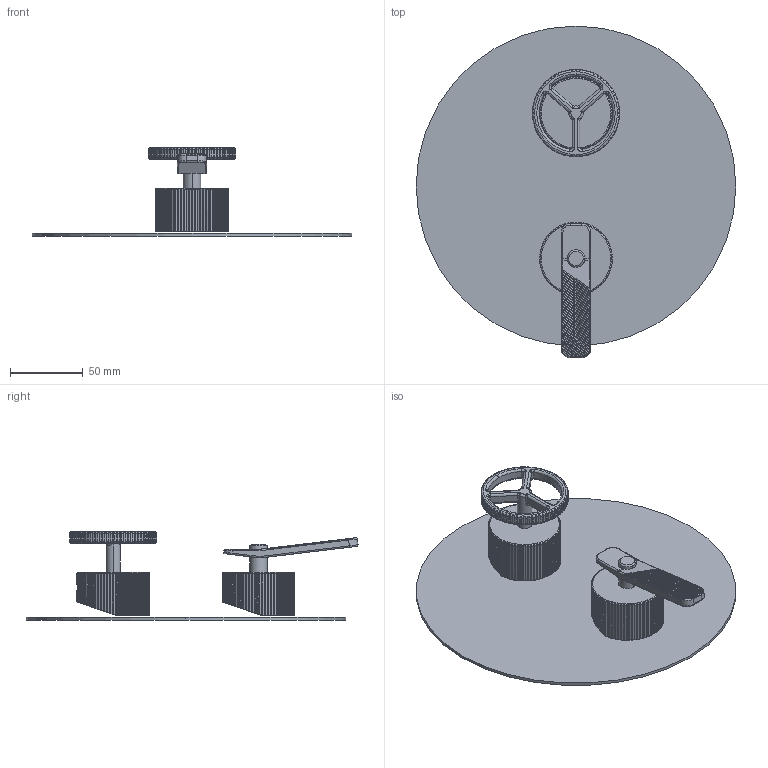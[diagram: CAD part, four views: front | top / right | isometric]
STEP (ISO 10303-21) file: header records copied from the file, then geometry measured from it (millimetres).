
FILE_DESCRIPTION (( 'STEP AP203' ), '1' );
FILE_NAME ('792261 x architetti.STEP', '2023-09-19T06:11:51', ( '' ), ( '' ), 'SwSTEP 2.0', 'SolidWorks 2020', '' );
FILE_SCHEMA (( 'CONFIG_CONTROL_DESIGN' ));
Length unit declared in the file: millimetre
Products named in the file (1): 792261 x architetti
Bounding box: 220 x 228.41 x 61 mm (x, y, z)
Volume: 190838.2 mm3; surface area: 120011.1 mm2
Topology: 3 solids, 3 shells, 1098 faces, 2906 edges, 1807 vertices
Faces by surface type: cylinder 827, bspline 206, plane 59, cone 6
Entity records: 61200 total; most frequent: CARTESIAN_POINT 36212, ORIENTED_EDGE 5796, DIRECTION 4676, EDGE_CURVE 2898, AXIS2_PLACEMENT_3D 1856, VERTEX_POINT 1807, EDGE_LOOP 1109, ADVANCED_FACE 1098
